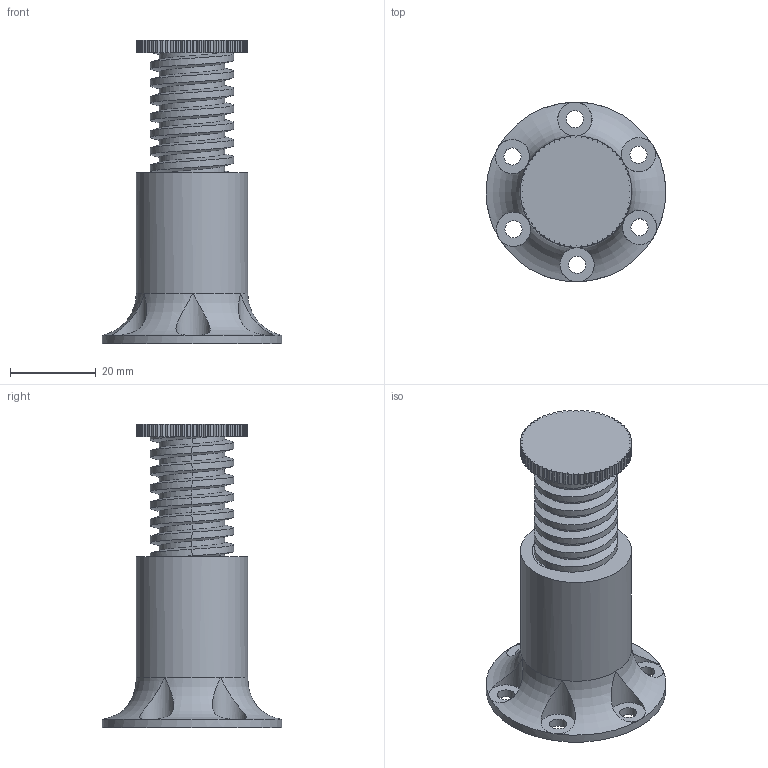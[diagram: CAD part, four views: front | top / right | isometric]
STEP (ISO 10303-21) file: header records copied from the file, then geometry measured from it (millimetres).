
FILE_DESCRIPTION(/* description */ (''),/* implementation_level */ '2;1');
FILE_NAME(/* name */ 'Opora.step',/* time_stamp */ '2026-04-28T21:38:45+03:00',/* author */ (''),/* organization */ (''),/* preprocessor_version */ 'ST-DEVELOPER v20.1',/* originating_system */ 'Autodesk Translation Framework v15.8.0.0',/* authorisation */ '');
FILE_SCHEMA (('AUTOMOTIVE_DESIGN { 1 0 10303 214 3 1 1 }'));
Length unit declared in the file: millimetre
Products named in the file (1): Opora
Bounding box: 42 x 42 x 71 mm (x, y, z)
Volume: 21037.6 mm3; surface area: 16429.7 mm2
Topology: 2 solids, 2 shells, 267 faces, 759 edges, 498 vertices
Faces by surface type: plane 132, cylinder 125, torus 6, bspline 4
Full cylindrical faces by diameter (mm): 4 x6, 10 x1, 15.287 x9, 16.188 x9, 19.55 x9, 20.5 x9, 26 x1, 42 x1
Entity records: 13303 total; most frequent: CARTESIAN_POINT 6377, ORIENTED_EDGE 1518, DIRECTION 1343, EDGE_CURVE 759, VERTEX_POINT 498, LINE 475, VECTOR 475, AXIS2_PLACEMENT_3D 434
